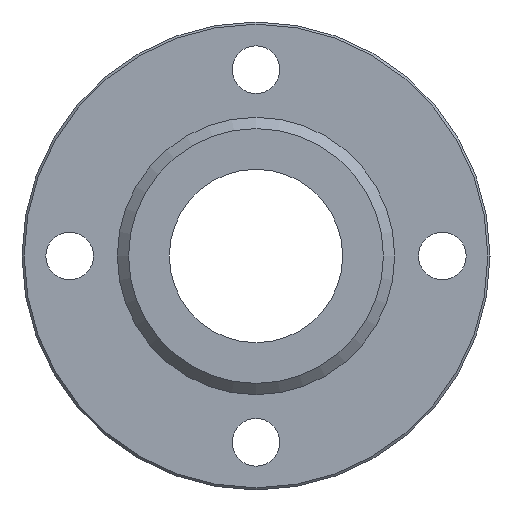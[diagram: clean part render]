
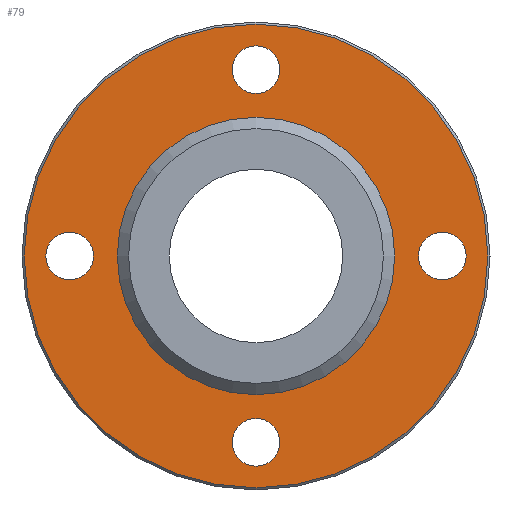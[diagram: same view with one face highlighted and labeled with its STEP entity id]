
A CAD part, left-side view. The second image highlights one B-rep face of the part: STEP entity #79.
In plain terms, the highlighted planar face has unit normal (-1, 0, 0).
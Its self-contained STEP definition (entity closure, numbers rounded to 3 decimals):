
#79=ADVANCED_FACE('',(#113,#114,#115,#116,#117,#118),#119,.F.);
#113=FACE_BOUND('',#184,.T.);
#114=FACE_BOUND('',#185,.T.);
#115=FACE_BOUND('',#186,.T.);
#116=FACE_BOUND('',#187,.T.);
#117=FACE_BOUND('',#188,.T.);
#118=FACE_OUTER_BOUND('',#189,.T.);
#119=PLANE('',#190);
#184=EDGE_LOOP('',(#263));
#185=EDGE_LOOP('',(#264));
#186=EDGE_LOOP('',(#265));
#187=EDGE_LOOP('',(#266));
#188=EDGE_LOOP('',(#267));
#189=EDGE_LOOP('',(#268));
#190=AXIS2_PLACEMENT_3D('',#269,#270,#271);
#263=ORIENTED_EDGE('',*,*,#361,.T.);
#264=ORIENTED_EDGE('',*,*,#362,.T.);
#265=ORIENTED_EDGE('',*,*,#363,.T.);
#266=ORIENTED_EDGE('',*,*,#364,.T.);
#267=ORIENTED_EDGE('',*,*,#365,.T.);
#268=ORIENTED_EDGE('',*,*,#366,.T.);
#269=CARTESIAN_POINT('',(-11.0,26.746,0.0));
#270=DIRECTION('',(1.0,0.0,0.0));
#271=DIRECTION('',(0.0,0.0,-1.0));
#361=EDGE_CURVE('',#395,#395,#396,.T.);
#362=EDGE_CURVE('',#397,#397,#398,.T.);
#363=EDGE_CURVE('',#399,#399,#400,.T.);
#364=EDGE_CURVE('',#401,#401,#402,.T.);
#365=EDGE_CURVE('',#403,#403,#404,.T.);
#366=EDGE_CURVE('',#405,#405,#406,.T.);
#395=VERTEX_POINT('',#445);
#396=CIRCLE('',#446,16.0);
#397=VERTEX_POINT('',#447);
#398=CIRCLE('',#448,2.75);
#399=VERTEX_POINT('',#449);
#400=CIRCLE('',#450,2.75);
#401=VERTEX_POINT('',#451);
#402=CIRCLE('',#452,2.75);
#403=VERTEX_POINT('',#453);
#404=CIRCLE('',#454,2.75);
#405=VERTEX_POINT('',#455);
#406=CIRCLE('',#456,26.746);
#445=CARTESIAN_POINT('',(-11.0,0.0,-16.0));
#446=AXIS2_PLACEMENT_3D('',#504,#505,#506);
#447=CARTESIAN_POINT('',(-11.0,0.0,-24.25));
#448=AXIS2_PLACEMENT_3D('',#507,#508,#509);
#449=CARTESIAN_POINT('',(-11.0,21.5,-2.75));
#450=AXIS2_PLACEMENT_3D('',#510,#511,#512);
#451=CARTESIAN_POINT('',(-11.0,-21.5,-2.75));
#452=AXIS2_PLACEMENT_3D('',#513,#514,#515);
#453=CARTESIAN_POINT('',(-11.0,0.0,18.75));
#454=AXIS2_PLACEMENT_3D('',#516,#517,#518);
#455=CARTESIAN_POINT('',(-11.0,0.0,26.746));
#456=AXIS2_PLACEMENT_3D('',#519,#520,#521);
#504=CARTESIAN_POINT('',(-11.0,0.0,0.0));
#505=DIRECTION('',(1.0,0.0,0.0));
#506=DIRECTION('',(0.0,0.0,-1.0));
#507=CARTESIAN_POINT('',(-11.0,0.0,-21.5));
#508=DIRECTION('',(1.0,0.0,0.0));
#509=DIRECTION('',(0.0,0.0,-1.0));
#510=CARTESIAN_POINT('',(-11.0,21.5,0.0));
#511=DIRECTION('',(1.0,0.0,0.0));
#512=DIRECTION('',(0.0,0.0,-1.0));
#513=CARTESIAN_POINT('',(-11.0,-21.5,0.0));
#514=DIRECTION('',(1.0,0.0,0.0));
#515=DIRECTION('',(0.0,0.0,-1.0));
#516=CARTESIAN_POINT('',(-11.0,0.0,21.5));
#517=DIRECTION('',(1.0,0.0,0.0));
#518=DIRECTION('',(0.0,0.0,-1.0));
#519=CARTESIAN_POINT('',(-11.0,0.0,0.0));
#520=DIRECTION('',(-1.0,0.0,0.0));
#521=DIRECTION('',(0.0,0.0,1.0));
